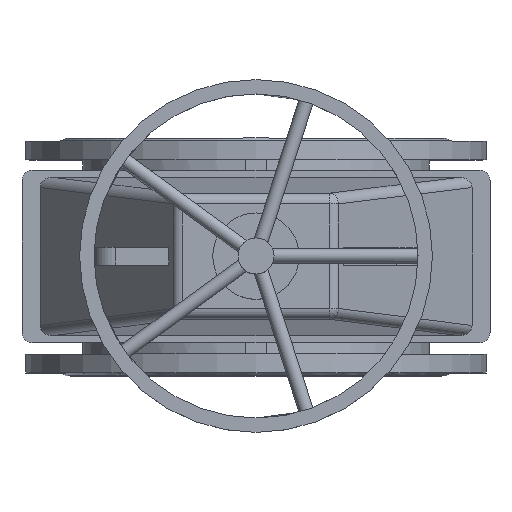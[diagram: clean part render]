
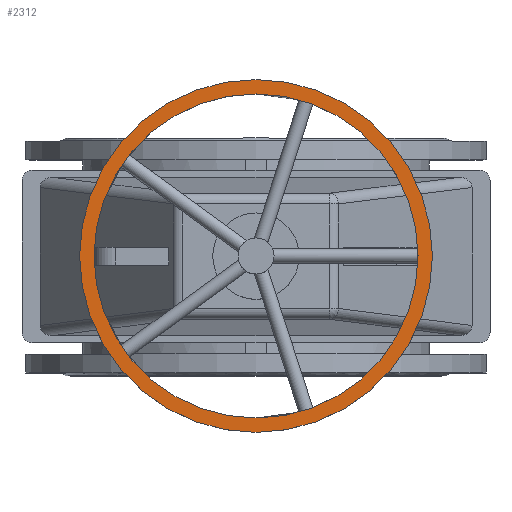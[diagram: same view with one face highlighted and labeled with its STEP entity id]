
A CAD part, top view. The second image highlights one B-rep face of the part: STEP entity #2312.
In plain terms, the highlighted planar face has unit normal (0, 0, 1).
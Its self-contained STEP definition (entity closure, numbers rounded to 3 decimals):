
#2312=ADVANCED_FACE('',(#4798,#4800),#4802,.T.);
#4798=FACE_BOUND('',#4799,.T.);
#4799=EDGE_LOOP('',(#7731));
#4800=FACE_BOUND('',#4801,.T.);
#4801=EDGE_LOOP('',(#7732));
#4802=PLANE('',#4803);
#4803=AXIS2_PLACEMENT_3D('',#4804,#4805,#4806);
#4804=CARTESIAN_POINT('',(0.,0.,920.));
#4805=DIRECTION('',(0.,0.,1.));
#4806=DIRECTION('',(0.,-1.,0.));
#7731=ORIENTED_EDGE('',*,*,#8867,.T.);
#7732=ORIENTED_EDGE('',*,*,#8865,.T.);
#8865=EDGE_CURVE('',#10449,#10449,#10450,.F.);
#8867=EDGE_CURVE('',#10453,#10453,#10454,.T.);
#10449=VERTEX_POINT('',#17295);
#10450=CIRCLE('',#17296,225.);
#10453=VERTEX_POINT('',#17305);
#10454=CIRCLE('',#17306,245.);
#17295=CARTESIAN_POINT('',(0.,-225.,920.));
#17296=AXIS2_PLACEMENT_3D('',#17297,#17298,#17299);
#17297=CARTESIAN_POINT('',(0.,0.,920.));
#17298=DIRECTION('',(0.,0.,1.));
#17299=DIRECTION('',(0.,-1.,0.));
#17305=CARTESIAN_POINT('',(0.,-245.,920.));
#17306=AXIS2_PLACEMENT_3D('',#17307,#17308,#17309);
#17307=CARTESIAN_POINT('',(0.,0.,920.));
#17308=DIRECTION('',(0.,0.,1.));
#17309=DIRECTION('',(0.,-1.,0.));
